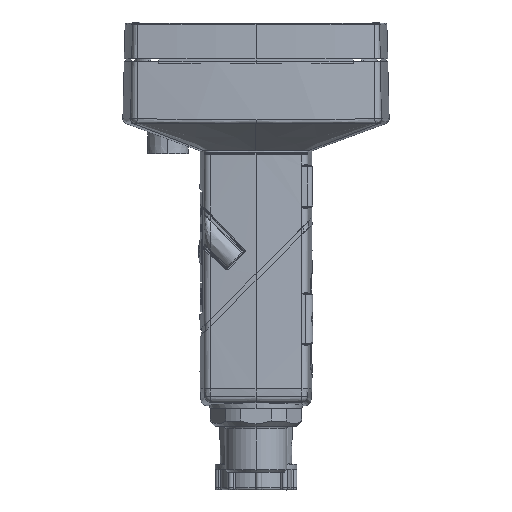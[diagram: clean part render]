
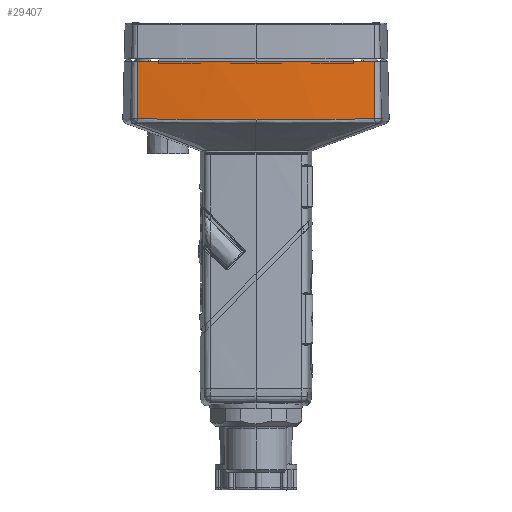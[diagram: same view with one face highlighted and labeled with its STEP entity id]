
A CAD part, left-side view. The second image highlights one B-rep face of the part: STEP entity #29407.
In plain terms, the highlighted conical face has half-angle 1 degrees and reference radius 195 mm.
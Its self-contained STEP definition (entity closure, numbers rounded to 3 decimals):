
#1364 = B_SPLINE_CURVE_WITH_KNOTS ( 'NONE', 3,
 ( #15720, #65054, #65289, #32285, #70761, #37856, #4893, #43418, #10412, #48901, #15955, #54392, #21460, #59948, #26985, #65508 ),
 .UNSPECIFIED., .F., .F.,
 ( 4, 2, 2, 1, 1, 2, 2, 2, 4 ),
 ( 0., 0., 0.001, 0.001, 0.001, 0.003, 0.006, 0.012, 0.023 ),
 .UNSPECIFIED. ) ;
#1642 = CARTESIAN_POINT ( 'NONE',  ( -28.857, -22.834, 6.707 ) ) ;
#4027 = VECTOR ( 'NONE', #34620, 1000. ) ;
#4526 = EDGE_CURVE ( 'NONE', #50227, #55145, #44308, .T. ) ;
#4893 = CARTESIAN_POINT ( 'NONE',  ( -28.913, 22.351, 6.709 ) ) ;
#5762 = LINE ( 'NONE', #7233, #4027 ) ;
#6431 = CARTESIAN_POINT ( 'NONE',  ( -28.821, -23.135, 6.74 ) ) ;
#7143 = CARTESIAN_POINT ( 'NONE',  ( -28.878, -22.653, 6.709 ) ) ;
#7233 = CARTESIAN_POINT ( 'NONE',  ( -28.611, -23.231, 18. ) ) ;
#7772 = CARTESIAN_POINT ( 'NONE',  ( 165., 0., 18. ) ) ;
#8794 = AXIS2_PLACEMENT_3D ( 'NONE', #20635, #53580, #37504 ) ;
#10412 = CARTESIAN_POINT ( 'NONE',  ( -29.082, 20.843, 6.707 ) ) ;
#12654 = CARTESIAN_POINT ( 'NONE',  ( -29.003, -21.567, 6.708 ) ) ;
#13282 = DIRECTION ( 'NONE',  ( 1., 0., 0. ) ) ;
#15720 = CARTESIAN_POINT ( 'NONE',  ( -28.806, 23.255, 6.762 ) ) ;
#15955 = CARTESIAN_POINT ( 'NONE',  ( -29.328, 18.427, 6.705 ) ) ;
#17888 = ORIENTED_EDGE ( 'NONE', *, *, #59529, .T. ) ;
#18195 = CARTESIAN_POINT ( 'NONE',  ( -29.234, -19.394, 6.706 ) ) ;
#19908 = EDGE_CURVE ( 'NONE', #50227, #55176, #41277, .T. ) ;
#20635 = CARTESIAN_POINT ( 'NONE',  ( 165., 0., 18. ) ) ;
#21460 = CARTESIAN_POINT ( 'NONE',  ( -29.733, 13.587, 6.702 ) ) ;
#22465 = DIRECTION ( 'NONE',  ( -0.017, 0.002, -1. ) ) ;
#23749 = CARTESIAN_POINT ( 'NONE',  ( -29.589, -15.525, 6.703 ) ) ;
#26985 = CARTESIAN_POINT ( 'NONE',  ( -30.197, 3.885, 6.696 ) ) ;
#27198 = EDGE_CURVE ( 'NONE', #55145, #30999, #5762, .T. ) ;
#27617 = AXIS2_PLACEMENT_3D ( 'NONE', #7772, #46284, #13282 ) ;
#29234 = CARTESIAN_POINT ( 'NONE',  ( -30.081, -7.77, 6.698 ) ) ;
#29407 = ADVANCED_FACE ( 'NONE', ( #35250 ), #57629, .T. ) ;
#30999 = VERTEX_POINT ( 'NONE', #44352 ) ;
#31527 = ORIENTED_EDGE ( 'NONE', *, *, #66828, .F. ) ;
#32007 = B_SPLINE_CURVE_WITH_KNOTS ( 'NONE', 3,
 ( #67276, #6431, #34537, #1642, #40117, #7143, #45659, #12654, #51164, #18195, #56675, #23749, #62204, #29234, #67750, #34797 ),
 .UNSPECIFIED., .F., .F.,
 ( 4, 2, 2, 1, 1, 2, 2, 2, 4 ),
 ( 0., 0., 0.001, 0.001, 0.001, 0.003, 0.006, 0.012, 0.023 ),
 .UNSPECIFIED. ) ;
#32285 = CARTESIAN_POINT ( 'NONE',  ( -28.857, 22.834, 6.707 ) ) ;
#32726 = ORIENTED_EDGE ( 'NONE', *, *, #4526, .F. ) ;
#34537 = CARTESIAN_POINT ( 'NONE',  ( -28.835, -23.014, 6.722 ) ) ;
#34620 = DIRECTION ( 'NONE',  ( -0.017, -0.002, -1. ) ) ;
#34797 = CARTESIAN_POINT ( 'NONE',  ( -30.197, 0., 6.695 ) ) ;
#35250 = FACE_OUTER_BOUND ( 'NONE', #63594, .T. ) ;
#37504 = DIRECTION ( 'NONE',  ( 1., 0., 0. ) ) ;
#37856 = CARTESIAN_POINT ( 'NONE',  ( -28.878, 22.653, 6.709 ) ) ;
#40117 = CARTESIAN_POINT ( 'NONE',  ( -28.864, -22.773, 6.709 ) ) ;
#41277 = LINE ( 'NONE', #49891, #54079 ) ;
#43418 = CARTESIAN_POINT ( 'NONE',  ( -29.003, 21.567, 6.708 ) ) ;
#43920 = CARTESIAN_POINT ( 'NONE',  ( -30.197, 0., 6.695 ) ) ;
#44308 = CIRCLE ( 'NONE', #27617, 195. ) ;
#44352 = CARTESIAN_POINT ( 'NONE',  ( -28.806, -23.255, 6.762 ) ) ;
#45659 = CARTESIAN_POINT ( 'NONE',  ( -28.913, -22.351, 6.709 ) ) ;
#46284 = DIRECTION ( 'NONE',  ( 0., 0., 1. ) ) ;
#46592 = CARTESIAN_POINT ( 'NONE',  ( -28.611, -23.231, 18. ) ) ;
#48901 = CARTESIAN_POINT ( 'NONE',  ( -29.234, 19.394, 6.706 ) ) ;
#49891 = CARTESIAN_POINT ( 'NONE',  ( -28.611, 23.231, 18. ) ) ;
#50227 = VERTEX_POINT ( 'NONE', #62182 ) ;
#51164 = CARTESIAN_POINT ( 'NONE',  ( -29.082, -20.843, 6.707 ) ) ;
#51426 = ORIENTED_EDGE ( 'NONE', *, *, #27198, .F. ) ;
#53580 = DIRECTION ( 'NONE',  ( 0., 0., -1. ) ) ;
#54079 = VECTOR ( 'NONE', #22465, 1000. ) ;
#54392 = CARTESIAN_POINT ( 'NONE',  ( -29.589, 15.525, 6.703 ) ) ;
#55145 = VERTEX_POINT ( 'NONE', #46592 ) ;
#55176 = VERTEX_POINT ( 'NONE', #62951 ) ;
#56675 = CARTESIAN_POINT ( 'NONE',  ( -29.328, -18.427, 6.705 ) ) ;
#57629 = CONICAL_SURFACE ( 'NONE', #8794, 195., 0.017 ) ;
#59529 = EDGE_CURVE ( 'NONE', #55176, #68890, #1364, .T. ) ;
#59948 = CARTESIAN_POINT ( 'NONE',  ( -30.081, 7.77, 6.698 ) ) ;
#62182 = CARTESIAN_POINT ( 'NONE',  ( -28.611, 23.231, 18. ) ) ;
#62204 = CARTESIAN_POINT ( 'NONE',  ( -29.733, -13.587, 6.702 ) ) ;
#62951 = CARTESIAN_POINT ( 'NONE',  ( -28.806, 23.255, 6.762 ) ) ;
#63594 = EDGE_LOOP ( 'NONE', ( #67424, #17888, #31527, #51426, #32726 ) ) ;
#65054 = CARTESIAN_POINT ( 'NONE',  ( -28.821, 23.135, 6.74 ) ) ;
#65289 = CARTESIAN_POINT ( 'NONE',  ( -28.835, 23.014, 6.722 ) ) ;
#65508 = CARTESIAN_POINT ( 'NONE',  ( -30.197, 0., 6.695 ) ) ;
#66828 = EDGE_CURVE ( 'NONE', #30999, #68890, #32007, .T. ) ;
#67276 = CARTESIAN_POINT ( 'NONE',  ( -28.806, -23.255, 6.762 ) ) ;
#67424 = ORIENTED_EDGE ( 'NONE', *, *, #19908, .T. ) ;
#67750 = CARTESIAN_POINT ( 'NONE',  ( -30.197, -3.885, 6.696 ) ) ;
#68890 = VERTEX_POINT ( 'NONE', #43920 ) ;
#70761 = CARTESIAN_POINT ( 'NONE',  ( -28.864, 22.773, 6.709 ) ) ;
